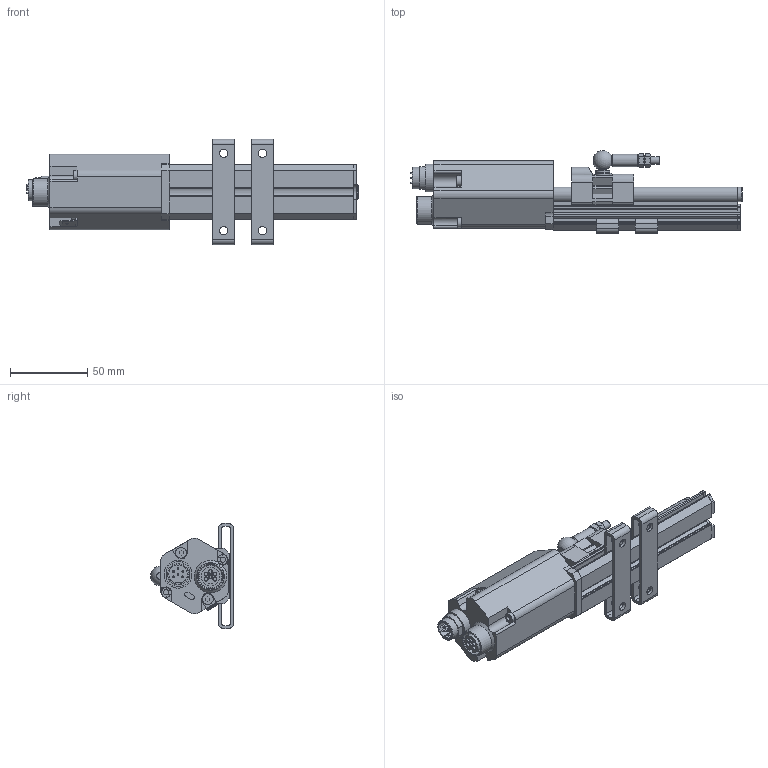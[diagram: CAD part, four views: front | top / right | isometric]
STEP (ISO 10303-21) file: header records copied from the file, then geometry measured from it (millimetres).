
FILE_DESCRIPTION( ( 'STEP AP203' ), '1' );
FILE_NAME( 'p:/temp/worker_28/temp/exporttempdir_3512_144_KxmlX/format_0/RP S 0025M D63 1 P101 Z02(M,S,0,P101,2,,,,,,,,,).stp', '2021-08-26T11:46:41', ( 'License CC BY-ND 4.0' ), ( 'CADENAS' ), ' ', 'PARTsolutions', ' ' );
FILE_SCHEMA( ( 'CONFIG_CONTROL_DESIGN' ) );
Length unit declared in the file: millimetre
Products named in the file (8): RP S 0025M D63 1 P101 Z02(M,S,0,P101,2,,,,,,,,,); _MTS RP D63 Profibus; _MTS R-Serie Profile 0025M  66; _252182; _252182_S; _400802; _RP cover; _RP plug
Assembly tree (8 placements, depth 2):
  RP S 0025M D63 1 P101 Z02(M,S,0,P101,2,,,,,,,,,)
    _MTS RP D63 Profibus
    _MTS R-Serie Profile 0025M  66
    _252182
    _252182_S
    _400802  x2
    _RP cover
    _RP plug
Bounding box: 214.5 x 53.47 x 68 mm (x, y, z)
Volume: 205139.1 mm3; surface area: 56407.1 mm2
Topology: 8 solids, 8 shells, 576 faces, 1500 edges, 991 vertices
Faces by surface type: plane 347, cylinder 201, cone 22, torus 5, sphere 1
Full cylindrical faces by diameter (mm): 0.8 x6, 1.2 x6, 1.5 x2, 1.7 x1, 2 x6, 2.6 x6, 3.8 x3, 4.134 x2, 5 x2, 5.5 x8, 6.5 x2, 7 x2, 7.25 x1, 8 x1, 9 x1, 9.3 x1, 13.8 x1, 15.1 x1, 15.459 x1, 18 x2
Entity records: 16784 total; most frequent: CARTESIAN_POINT 3078, DIRECTION 2833, ORIENTED_EDGE 2670, EDGE_CURVE 1335, AXIS2_PLACEMENT_3D 969, VERTEX_POINT 930, LINE 895, VECTOR 895
